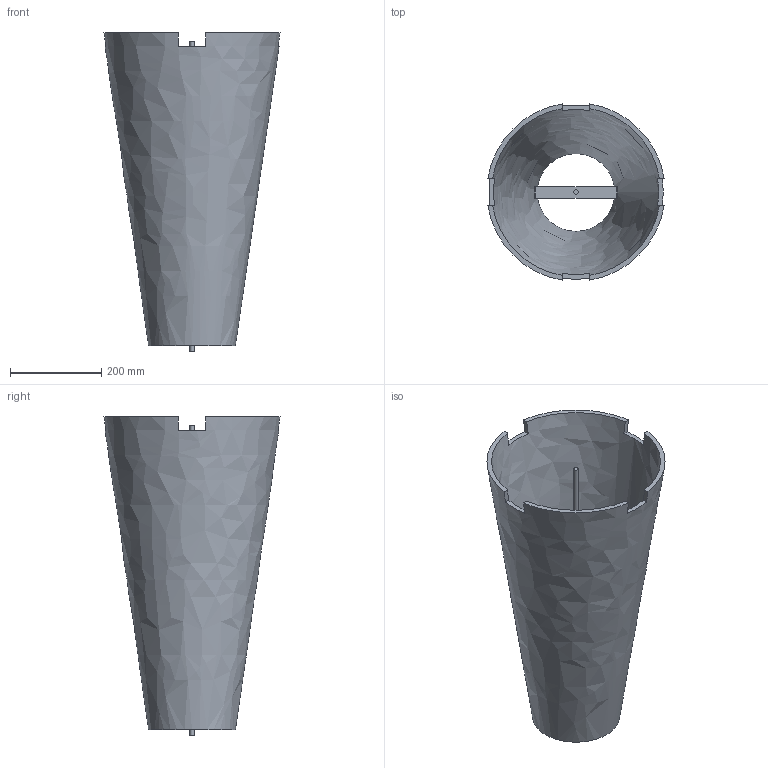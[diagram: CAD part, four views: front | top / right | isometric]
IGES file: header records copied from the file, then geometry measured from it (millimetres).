
Start section: Data from Parasolid IGES Translator 20.0.26, Copyright(c) 2006 Siemens P LM Software. All Rights Reserved.
Global section: file name: 45825.igs; native system: By Siemens PLM Incorporated; preprocessor: XPlus GENERIC/IGES 20.0.26; author: Noname; organization: Noname; date: 20210125.172819; units: millimetre
Bounding box: 385.36 x 385.36 x 697 mm (x, y, z)
Surface area: 1256301.1 mm2 (no closed solid volume)
Topology: 0 solids, 0 shells, 32 faces, 162 edges, 159 vertices
Faces by surface type: extrusion 29, revolution 3
